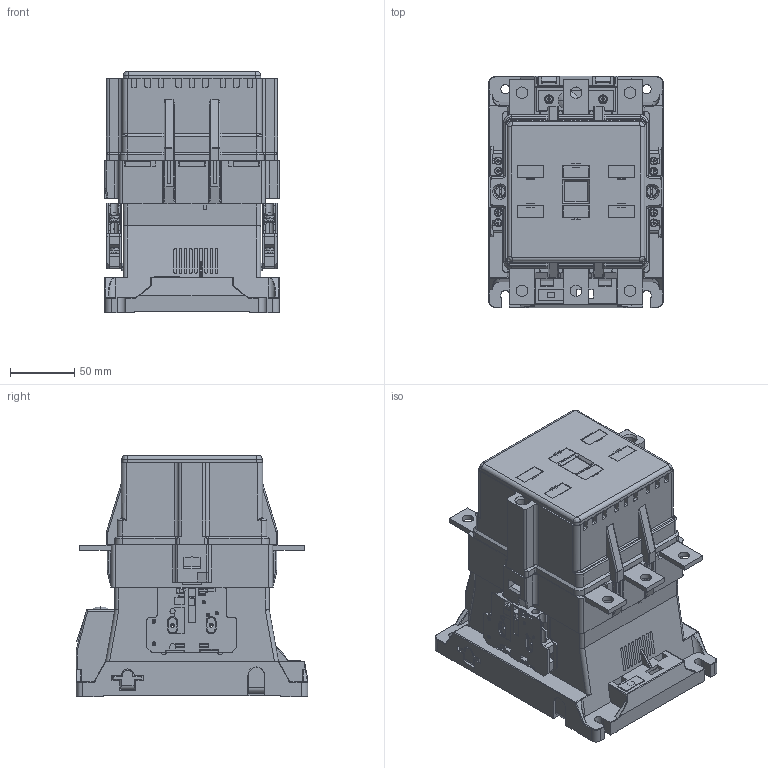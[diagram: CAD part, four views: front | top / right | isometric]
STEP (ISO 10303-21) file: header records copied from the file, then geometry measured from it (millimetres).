
FILE_DESCRIPTION((''),'2;1');
FILE_NAME('170','2024-06-25T',('qinxiong.ji'),(''),'PRO/ENGINEER BY PARAMETRIC TECHNOLOGY CORPORATION, 2015440','PRO/ENGINEER BY PARAMETRIC TECHNOLOGY CORPORATION, 2015440','');
FILE_SCHEMA(('CONFIG_CONTROL_DESIGN'));
Products named in the file (1): 170
Bounding box: 135.5 x 180 x 187.5 mm (x, y, z)
Surface area: 326968.7 mm2 (no closed solid volume)
Topology: 0 solids, 185 shells, 3504 faces, 13914 edges, 10165 vertices
Faces by surface type: plane 2283, cylinder 903, torus 108, bspline 106, cone 62, sphere 42
Entity records: 156514 total; most frequent: CARTESIAN_POINT 43216, DIRECTION 22614, ORIENTED_EDGE 21828, EDGE_CURVE 13840, VERTEX_POINT 10149, VECTOR 9932, LINE 9932, AXIS2_PLACEMENT_3D 6341
